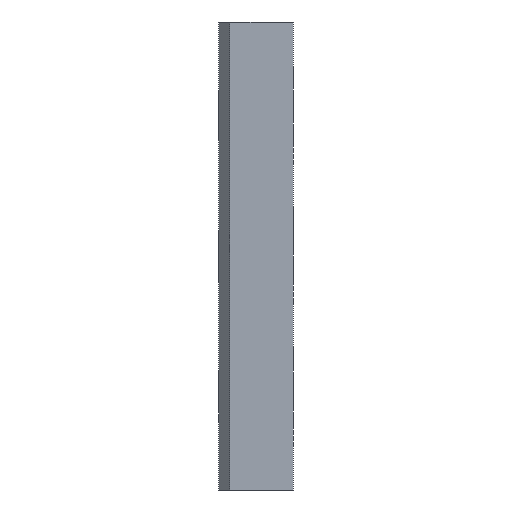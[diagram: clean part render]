
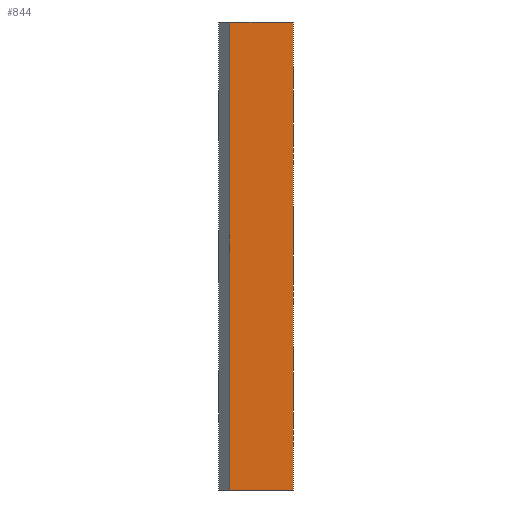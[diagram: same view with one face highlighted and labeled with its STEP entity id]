
A CAD part, front view. The second image highlights one B-rep face of the part: STEP entity #844.
In plain terms, the highlighted planar face has unit normal (0, -1, 0).
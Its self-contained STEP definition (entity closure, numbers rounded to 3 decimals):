
#368=CARTESIAN_POINT('Vertex',(20.,0.,-62.5)) ;
#371=CARTESIAN_POINT('Line Origine',(11.5,0.,-62.5)) ;
#375=CARTESIAN_POINT('Vertex',(3.,0.,-62.5)) ;
#398=CARTESIAN_POINT('Line Origine',(3.,0.,0.)) ;
#402=CARTESIAN_POINT('Vertex',(3.,0.,62.5)) ;
#422=CARTESIAN_POINT('Line Origine',(11.5,0.,62.5)) ;
#426=CARTESIAN_POINT('Vertex',(20.,0.,62.5)) ;
#719=CARTESIAN_POINT('Line Origine',(20.,0.,0.)) ;
#833=CARTESIAN_POINT('Axis2P3D Location',(3.,0.,62.5)) ;
#372=DIRECTION('Vector Direction',(1.,0.,0.)) ;
#399=DIRECTION('Vector Direction',(0.,0.,-1.)) ;
#423=DIRECTION('Vector Direction',(1.,0.,0.)) ;
#720=DIRECTION('Vector Direction',(0.,0.,-1.)) ;
#834=DIRECTION('Axis2P3D Direction',(0.,1.,0.)) ;
#835=DIRECTION('Axis2P3D XDirection',(0.,-0.,1.)) ;
#836=AXIS2_PLACEMENT_3D('Plane Axis2P3D',#833,#834,#835) ;
#839=ORIENTED_EDGE('',*,*,#377,.T.) ;
#840=ORIENTED_EDGE('',*,*,#723,.F.) ;
#841=ORIENTED_EDGE('',*,*,#428,.F.) ;
#842=ORIENTED_EDGE('',*,*,#404,.T.) ;
#373=VECTOR('Line Direction',#372,1.) ;
#400=VECTOR('Line Direction',#399,1.) ;
#424=VECTOR('Line Direction',#423,1.) ;
#721=VECTOR('Line Direction',#720,1.) ;
#844=ADVANCED_FACE('A915-125X315',(#843),#837,.F.) ;
#377=EDGE_CURVE('',#376,#369,#374,.T.) ;
#404=EDGE_CURVE('',#403,#376,#401,.T.) ;
#428=EDGE_CURVE('',#403,#427,#425,.T.) ;
#723=EDGE_CURVE('',#427,#369,#722,.T.) ;
#838=EDGE_LOOP('',(#839,#840,#841,#842)) ;
#843=FACE_OUTER_BOUND('',#838,.T.) ;
#374=LINE('Line',#371,#373) ;
#401=LINE('Line',#398,#400) ;
#425=LINE('Line',#422,#424) ;
#722=LINE('Line',#719,#721) ;
#837=PLANE('Plane',#836) ;
#369=VERTEX_POINT('',#368) ;
#376=VERTEX_POINT('',#375) ;
#403=VERTEX_POINT('',#402) ;
#427=VERTEX_POINT('',#426) ;
